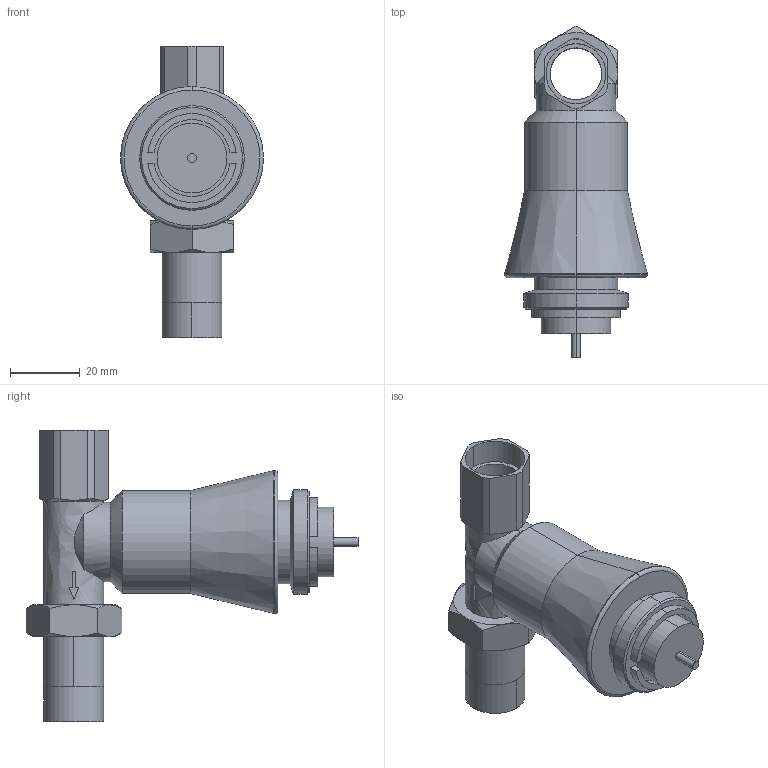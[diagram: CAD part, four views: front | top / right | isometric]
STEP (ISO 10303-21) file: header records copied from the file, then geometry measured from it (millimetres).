
FILE_DESCRIPTION((''),'2;1');
FILE_NAME('000060.stp','2006-09-29T17:14:14',(''),(''),'Mechanical Desktop 2006','Mechanical Desktop 2006',', , ');
FILE_SCHEMA(('AUTOMOTIVE_DESIGN { 1 2 10303 214 0 1 1 1 }'));
Length unit declared in the file: millimetre
Products named in the file (1): Product
Bounding box: 41 x 95.25 x 83.5 mm (x, y, z)
Volume: 57842 mm3; surface area: 21345.2 mm2
Topology: 9 solids, 9 shells, 119 faces, 282 edges, 185 vertices
Faces by surface type: bspline 52, plane 28, cylinder 27, cone 8, torus 4
Entity records: 3952 total; most frequent: CARTESIAN_POINT 1327, ORIENTED_EDGE 564, DIRECTION 505, EDGE_CURVE 282, AXIS2_PLACEMENT_3D 199, VERTEX_POINT 185, EDGE_LOOP 129, CIRCLE 123
